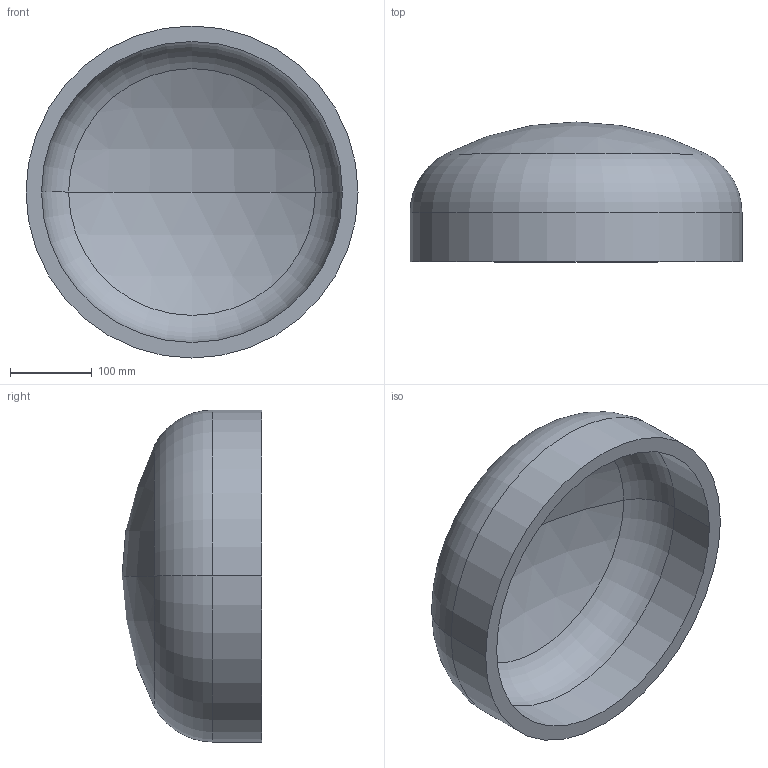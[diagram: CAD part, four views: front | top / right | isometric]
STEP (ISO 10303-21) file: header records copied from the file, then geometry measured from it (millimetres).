
FILE_DESCRIPTION (( 'STEP AP203' ), '1' );
FILE_NAME ('DIN 28013 Korbbogenform_-_Boden DIN 28013 - 406,4 x 60 - I - s=19.step', '2016-07-01T07:49:28', ( '' ), ( '' ), 'SwSTEP 2.0', 'SolidWorks 2013', '' );
FILE_SCHEMA (( 'CONFIG_CONTROL_DESIGN' ));
Length unit declared in the file: millimetre
Products named in the file (1): DIN 28013 Korbbogenform_-_Boden DIN 28013 - 406,4 x 60 - I - s=19
Bounding box: 406.4 x 171.11 x 406.4 mm (x, y, z)
Volume: 4595289.7 mm3; surface area: 507594.7 mm2
Topology: 1 solids, 1 shells, 13 faces, 24 edges, 14 vertices
Faces by surface type: torus 4, cylinder 4, sphere 4, plane 1
Entity records: 407 total; most frequent: DIRECTION 72, CARTESIAN_POINT 52, ORIENTED_EDGE 48, AXIS2_PLACEMENT_3D 34, EDGE_CURVE 24, CIRCLE 20, VERTEX_POINT 14, EDGE_LOOP 14
